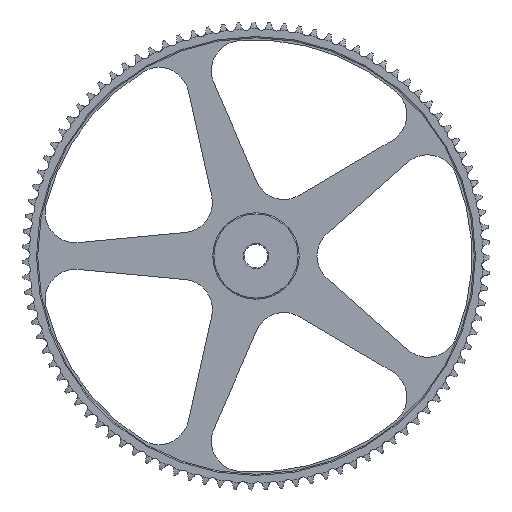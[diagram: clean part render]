
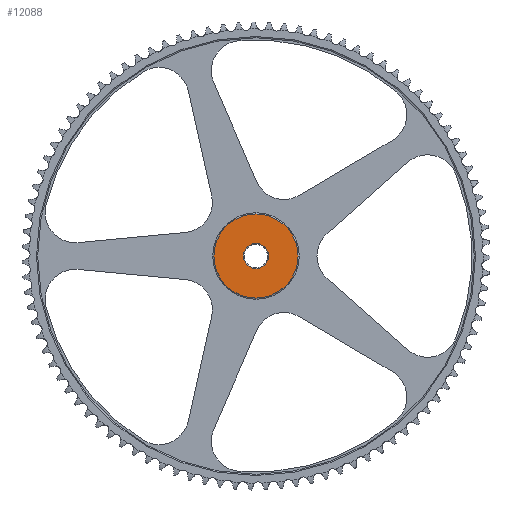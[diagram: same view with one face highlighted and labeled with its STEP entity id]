
A CAD part, left-side view. The second image highlights one B-rep face of the part: STEP entity #12088.
In plain terms, the highlighted planar face has unit normal (-1, 0, 0).
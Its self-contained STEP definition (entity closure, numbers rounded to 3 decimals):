
#48=FACE_BOUND('',#2265,.T.);
#86=PLANE('',#13391);
#946=CIRCLE('',#13390,70.);
#947=CIRCLE('',#13392,21.);
#1596=FACE_OUTER_BOUND('',#2264,.T.);
#2264=EDGE_LOOP('',(#10817));
#2265=EDGE_LOOP('',(#10818));
#5275=VERTEX_POINT('',#24064);
#5276=VERTEX_POINT('',#24067);
#7192=EDGE_CURVE('',#5275,#5275,#946,.T.);
#7193=EDGE_CURVE('',#5276,#5276,#947,.T.);
#10817=ORIENTED_EDGE('',*,*,#7192,.T.);
#10818=ORIENTED_EDGE('',*,*,#7193,.F.);
#12088=ADVANCED_FACE('',(#1596,#48),#86,.T.);
#13390=AXIS2_PLACEMENT_3D('',#24065,#16450,#16451);
#13391=AXIS2_PLACEMENT_3D('',#24066,#16452,#16453);
#13392=AXIS2_PLACEMENT_3D('',#24068,#16454,#16455);
#16450=DIRECTION('center_axis',(-1.,0.,0.));
#16451=DIRECTION('ref_axis',(0.,0.,1.));
#16452=DIRECTION('center_axis',(-1.,0.,0.));
#16453=DIRECTION('ref_axis',(0.,0.,1.));
#16454=DIRECTION('center_axis',(-1.,0.,0.));
#16455=DIRECTION('ref_axis',(0.,0.,1.));
#24064=CARTESIAN_POINT('',(3.627,321.641,0.));
#24065=CARTESIAN_POINT('Origin',(3.627,391.641,0.));
#24066=CARTESIAN_POINT('Origin',(3.627,370.641,0.));
#24067=CARTESIAN_POINT('',(3.627,370.641,0.));
#24068=CARTESIAN_POINT('Origin',(3.627,391.641,0.));
